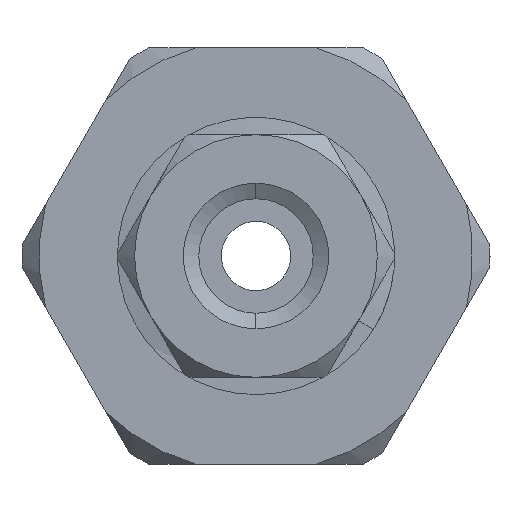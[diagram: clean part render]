
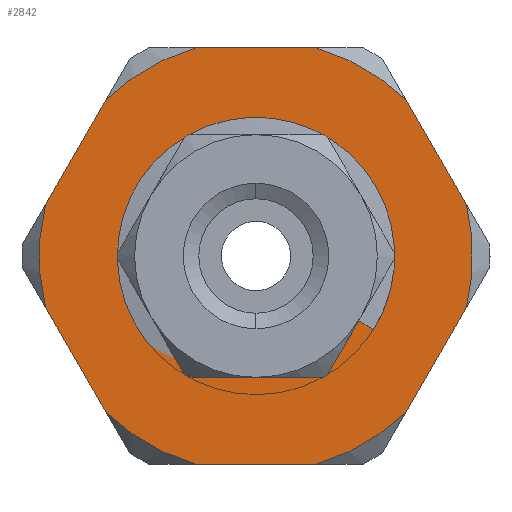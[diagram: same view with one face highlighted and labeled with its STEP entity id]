
A CAD part, front view. The second image highlights one B-rep face of the part: STEP entity #2842.
In plain terms, the highlighted planar face has unit normal (0, -1, 0).
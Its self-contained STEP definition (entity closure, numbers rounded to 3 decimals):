
#70 = CARTESIAN_POINT ( 'NONE',  ( -8.714, 9.325, 16.478 ) ) ;
#97 = LINE ( 'NONE', #7404, #13610 ) ;
#149 = VECTOR ( 'NONE', #13797, 1000. ) ;
#304 = DIRECTION ( 'NONE',  ( 0.866, 0., 0.5 ) ) ;
#438 = VERTEX_POINT ( 'NONE', #1576 ) ;
#570 = CARTESIAN_POINT ( 'NONE',  ( 1.395, 9.325, 20. ) ) ;
#718 = VERTEX_POINT ( 'NONE', #14730 ) ;
#850 = LINE ( 'NONE', #15422, #10857 ) ;
#855 = CARTESIAN_POINT ( 'NONE',  ( 4.841, 9.325, 17. ) ) ;
#868 = AXIS2_PLACEMENT_3D ( 'NONE', #9449, #1615, #10760 ) ;
#1080 = DIRECTION ( 'NONE',  ( 0.5, 0., 0.866 ) ) ;
#1303 = DIRECTION ( 'NONE',  ( 0.866, 0., 0.5 ) ) ;
#1382 = DIRECTION ( 'NONE',  ( 0.866, 0., 0.5 ) ) ;
#1430 = CIRCLE ( 'NONE', #13557, 6.25 ) ;
#1576 = CARTESIAN_POINT ( 'NONE',  ( -2.105, 9.325, 20. ) ) ;
#1615 = DIRECTION ( 'NONE',  ( 0., 1., 0. ) ) ;
#1724 = AXIS2_PLACEMENT_3D ( 'NONE', #4139, #13323, #5482 ) ;
#2203 = CARTESIAN_POINT ( 'NONE',  ( -3.386, 9.325, 12.25 ) ) ;
#2252 = CARTESIAN_POINT ( 'NONE',  ( 1.395, 9.325, 8. ) ) ;
#2555 = EDGE_CURVE ( 'NONE', #11923, #11717, #8715, .T. ) ;
#2722 = CARTESIAN_POINT ( 'NONE',  ( -0.355, 9.325, 14. ) ) ;
#2842 = ADVANCED_FACE ( 'NONE', ( #13809, #6821 ), #14349, .F. ) ;
#2994 = VERTEX_POINT ( 'NONE', #6861 ) ;
#3068 = VECTOR ( 'NONE', #8697, 1000. ) ;
#3416 = ORIENTED_EDGE ( 'NONE', *, *, #4547, .F. ) ;
#3895 = DIRECTION ( 'NONE',  ( 0., 1., 0. ) ) ;
#3961 = CARTESIAN_POINT ( 'NONE',  ( 2.676, 9.325, 15.75 ) ) ;
#3969 = CARTESIAN_POINT ( 'NONE',  ( -6.426, 9.325, 12.516 ) ) ;
#4021 = DIRECTION ( 'NONE',  ( 0.866, 0., 0.5 ) ) ;
#4082 = AXIS2_PLACEMENT_3D ( 'NONE', #12327, #4485, #13657 ) ;
#4139 = CARTESIAN_POINT ( 'NONE',  ( -0.355, 9.325, 14. ) ) ;
#4158 = EDGE_CURVE ( 'NONE', #5904, #718, #1430, .T. ) ;
#4160 = EDGE_CURVE ( 'NONE', #11252, #2994, #13717, .T. ) ;
#4207 = ORIENTED_EDGE ( 'NONE', *, *, #4158, .F. ) ;
#4485 = DIRECTION ( 'NONE',  ( 0., 1., 0. ) ) ;
#4547 = EDGE_CURVE ( 'NONE', #16879, #438, #14500, .T. ) ;
#4562 = ORIENTED_EDGE ( 'NONE', *, *, #4160, .F. ) ;
#4624 = CARTESIAN_POINT ( 'NONE',  ( 3.295, 9.325, 8.322 ) ) ;
#4796 = VECTOR ( 'NONE', #12669, 1000. ) ;
#4880 = ORIENTED_EDGE ( 'NONE', *, *, #14948, .F. ) ;
#4937 = EDGE_CURVE ( 'NONE', #9401, #11889, #8406, .T. ) ;
#4964 = EDGE_CURVE ( 'NONE', #11717, #6652, #15348, .T. ) ;
#5055 = ORIENTED_EDGE ( 'NONE', *, *, #10327, .F. ) ;
#5217 = ORIENTED_EDGE ( 'NONE', *, *, #2555, .F. ) ;
#5322 = DIRECTION ( 'NONE',  ( 0., 1., 0. ) ) ;
#5482 = DIRECTION ( 'NONE',  ( 0.866, 0., 0.5 ) ) ;
#5839 = ORIENTED_EDGE ( 'NONE', *, *, #11858, .F. ) ;
#5904 = VERTEX_POINT ( 'NONE', #570 ) ;
#5915 = CARTESIAN_POINT ( 'NONE',  ( -4.676, 9.325, 18.516 ) ) ;
#6251 = CIRCLE ( 'NONE', #10221, 3.5 ) ;
#6298 = EDGE_CURVE ( 'NONE', #438, #5904, #15672, .T. ) ;
#6476 = CARTESIAN_POINT ( 'NONE',  ( -6.426, 9.325, 15.484 ) ) ;
#6652 = VERTEX_POINT ( 'NONE', #13346 ) ;
#6768 = CIRCLE ( 'NONE', #8038, 6.25 ) ;
#6821 = FACE_OUTER_BOUND ( 'NONE', #7830, .T. ) ;
#6861 = CARTESIAN_POINT ( 'NONE',  ( 5.716, 9.325, 12.516 ) ) ;
#7106 = LINE ( 'NONE', #4624, #149 ) ;
#7404 = CARTESIAN_POINT ( 'NONE',  ( -5.551, 9.325, 11. ) ) ;
#7830 = EDGE_LOOP ( 'NONE', ( #4880, #16074, #4562, #5839, #4207, #15630, #3416, #11306, #5055, #9914, #12152, #5217 ) ) ;
#7884 = CIRCLE ( 'NONE', #13339, 6.25 ) ;
#8038 = AXIS2_PLACEMENT_3D ( 'NONE', #2722, #11882, #4021 ) ;
#8146 = DIRECTION ( 'NONE',  ( 0., -1., 0. ) ) ;
#8406 = CIRCLE ( 'NONE', #1724, 3.5 ) ;
#8523 = CARTESIAN_POINT ( 'NONE',  ( -2.105, 9.325, 8. ) ) ;
#8555 = CARTESIAN_POINT ( 'NONE',  ( 5.716, 9.325, 15.484 ) ) ;
#8661 = CARTESIAN_POINT ( 'NONE',  ( 3.966, 9.325, 9.484 ) ) ;
#8697 = DIRECTION ( 'NONE',  ( 0.5, 0., -0.866 ) ) ;
#8715 = LINE ( 'NONE', #10072, #4796 ) ;
#9136 = DIRECTION ( 'NONE',  ( 0., 1., 0. ) ) ;
#9216 = DIRECTION ( 'NONE',  ( 0., 1., 0. ) ) ;
#9401 = VERTEX_POINT ( 'NONE', #3961 ) ;
#9449 = CARTESIAN_POINT ( 'NONE',  ( -0.355, 9.325, 14. ) ) ;
#9914 = ORIENTED_EDGE ( 'NONE', *, *, #10666, .F. ) ;
#10072 = CARTESIAN_POINT ( 'NONE',  ( -3.447, 9.325, 8. ) ) ;
#10221 = AXIS2_PLACEMENT_3D ( 'NONE', #15971, #8146, #304 ) ;
#10327 = EDGE_CURVE ( 'NONE', #12971, #16090, #7884, .T. ) ;
#10550 = CARTESIAN_POINT ( 'NONE',  ( 2.737, 9.325, 20. ) ) ;
#10666 = EDGE_CURVE ( 'NONE', #6652, #12971, #97, .T. ) ;
#10760 = DIRECTION ( 'NONE',  ( 0.866, 0., 0.5 ) ) ;
#10857 = VECTOR ( 'NONE', #1080, 1000. ) ;
#11110 = ORIENTED_EDGE ( 'NONE', *, *, #14139, .F. ) ;
#11252 = VERTEX_POINT ( 'NONE', #8555 ) ;
#11306 = ORIENTED_EDGE ( 'NONE', *, *, #15410, .F. ) ;
#11717 = VERTEX_POINT ( 'NONE', #8523 ) ;
#11763 = CARTESIAN_POINT ( 'NONE',  ( -0.355, 9.325, 14. ) ) ;
#11858 = EDGE_CURVE ( 'NONE', #718, #11252, #16598, .T. ) ;
#11882 = DIRECTION ( 'NONE',  ( 0., 1., 0. ) ) ;
#11889 = VERTEX_POINT ( 'NONE', #2203 ) ;
#11923 = VERTEX_POINT ( 'NONE', #2252 ) ;
#11938 = EDGE_LOOP ( 'NONE', ( #12626, #11110 ) ) ;
#12152 = ORIENTED_EDGE ( 'NONE', *, *, #4964, .F. ) ;
#12327 = CARTESIAN_POINT ( 'NONE',  ( -0.355, 9.325, 14. ) ) ;
#12626 = ORIENTED_EDGE ( 'NONE', *, *, #4937, .F. ) ;
#12669 = DIRECTION ( 'NONE',  ( -1., 0., 0. ) ) ;
#12683 = AXIS2_PLACEMENT_3D ( 'NONE', #11763, #3895, #13073 ) ;
#12971 = VERTEX_POINT ( 'NONE', #3969 ) ;
#13073 = DIRECTION ( 'NONE',  ( 0.866, 0., 0.5 ) ) ;
#13171 = CARTESIAN_POINT ( 'NONE',  ( -0.355, 9.325, 14. ) ) ;
#13322 = EDGE_CURVE ( 'NONE', #2994, #15241, #7106, .T. ) ;
#13323 = DIRECTION ( 'NONE',  ( 0., -1., 0. ) ) ;
#13339 = AXIS2_PLACEMENT_3D ( 'NONE', #13171, #5322, #14490 ) ;
#13346 = CARTESIAN_POINT ( 'NONE',  ( -4.676, 9.325, 9.484 ) ) ;
#13557 = AXIS2_PLACEMENT_3D ( 'NONE', #16948, #9136, #1303 ) ;
#13610 = VECTOR ( 'NONE', #13989, 1000. ) ;
#13657 = DIRECTION ( 'NONE',  ( 0.866, 0., 0.5 ) ) ;
#13717 = CIRCLE ( 'NONE', #12683, 6.25 ) ;
#13797 = DIRECTION ( 'NONE',  ( -0.5, 0., -0.866 ) ) ;
#13809 = FACE_BOUND ( 'NONE', #11938, .T. ) ;
#13868 = VECTOR ( 'NONE', #15676, 1000. ) ;
#13989 = DIRECTION ( 'NONE',  ( -0.5, 0., 0.866 ) ) ;
#14139 = EDGE_CURVE ( 'NONE', #11889, #9401, #6251, .T. ) ;
#14349 = PLANE ( 'NONE',  #16408 ) ;
#14490 = DIRECTION ( 'NONE',  ( 0.866, 0., 0.5 ) ) ;
#14500 = CIRCLE ( 'NONE', #4082, 6.25 ) ;
#14730 = CARTESIAN_POINT ( 'NONE',  ( 3.966, 9.325, 18.516 ) ) ;
#14948 = EDGE_CURVE ( 'NONE', #15241, #11923, #6768, .T. ) ;
#15241 = VERTEX_POINT ( 'NONE', #8661 ) ;
#15348 = CIRCLE ( 'NONE', #868, 6.25 ) ;
#15410 = EDGE_CURVE ( 'NONE', #16090, #16879, #850, .T. ) ;
#15422 = CARTESIAN_POINT ( 'NONE',  ( -4.005, 9.325, 19.678 ) ) ;
#15630 = ORIENTED_EDGE ( 'NONE', *, *, #6298, .F. ) ;
#15672 = LINE ( 'NONE', #10550, #13868 ) ;
#15676 = DIRECTION ( 'NONE',  ( 1., 0., 0. ) ) ;
#15971 = CARTESIAN_POINT ( 'NONE',  ( -0.355, 9.325, 14. ) ) ;
#16074 = ORIENTED_EDGE ( 'NONE', *, *, #13322, .F. ) ;
#16090 = VERTEX_POINT ( 'NONE', #6476 ) ;
#16408 = AXIS2_PLACEMENT_3D ( 'NONE', #70, #9216, #1382 ) ;
#16598 = LINE ( 'NONE', #855, #3068 ) ;
#16879 = VERTEX_POINT ( 'NONE', #5915 ) ;
#16948 = CARTESIAN_POINT ( 'NONE',  ( -0.355, 9.325, 14. ) ) ;
